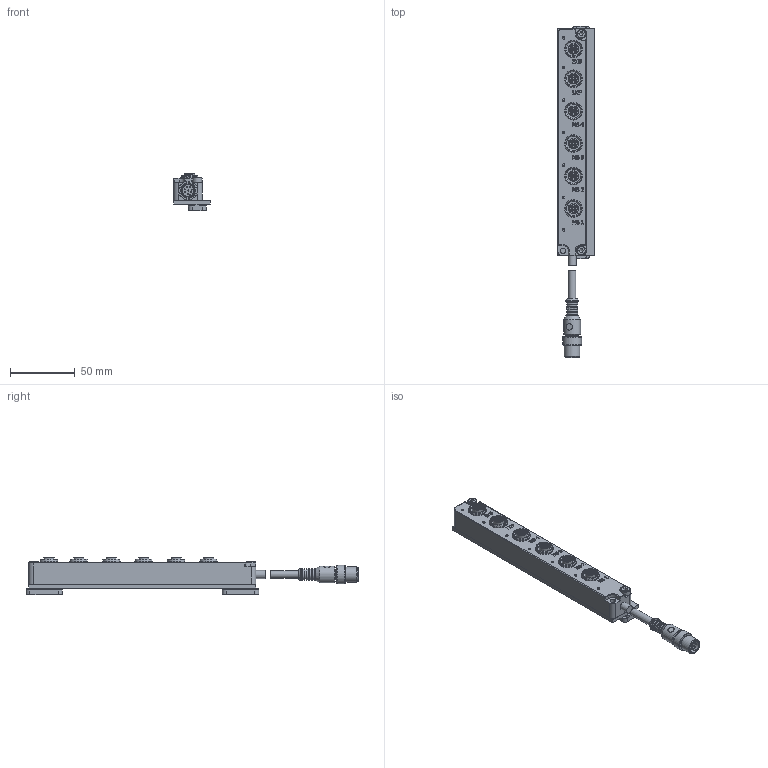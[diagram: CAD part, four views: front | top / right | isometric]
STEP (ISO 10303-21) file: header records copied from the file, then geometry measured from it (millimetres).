
FILE_DESCRIPTION((''),'2;1');
FILE_NAME('\\leuze.de\dfs01\Germering\cam\INVENTORjob\Konstruktion\520144_AC-SCM7U-BT.stp','2020-08-07T09:42:26',('phaberl'),(''),'Autodesk Inventor 2009','Autodesk Inventor 2009','');
FILE_SCHEMA(('AUTOMOTIVE_DESIGN { 1 0 10303 214 1 1 1 1 }'));
Length unit declared in the file: millimetre
Products named in the file (5): 520144_AC-SCM7U-BT; 150027_SCM7U; NUTENSTEIN-M6_vereinfacht; DIN 912 - ersetzt durch DIN EN ISO 4762 M4 x 20; 347037_01_Befestigungsplatte
Assembly tree (6 placements, depth 2):
  520144_AC-SCM7U-BT
    150027_SCM7U
    NUTENSTEIN-M6_vereinfacht  x2
    DIN 912 - ersetzt durch DIN EN ISO 4762 M4 x 20  x2
    347037_01_Befestigungsplatte
Bounding box: 28 x 255.73 x 28.9 mm (x, y, z)
Volume: 88885.2 mm3; surface area: 35158 mm2
Topology: 7 solids, 7 shells, 2128 faces, 6206 edges, 4258 vertices
Faces by surface type: plane 910, cylinder 516, bspline 480, cone 197, sphere 13, torus 12
Full cylindrical faces by diameter (mm): 0.8 x8, 1.2 x24, 4 x2, 4.2 x5, 4.65 x2, 5.55 x2, 6 x1, 6.2 x1, 7 x2, 7.5 x2, 8 x1, 8.5 x4, 9 x1, 10 x1, 10.8 x1, 10.9 x6, 11.25 x1, 12 x1, 12.2 x6, 13 x1, 13.6 x6, 14.25 x2, 14.5 x1
Entity records: 86779 total; most frequent: CARTESIAN_POINT 34721, ORIENTED_EDGE 11772, DIRECTION 9369, EDGE_CURVE 5886, VERTEX_POINT 4147, AXIS2_PLACEMENT_3D 3648, EDGE_LOOP 2451, FACE_OUTER_BOUND 2093
